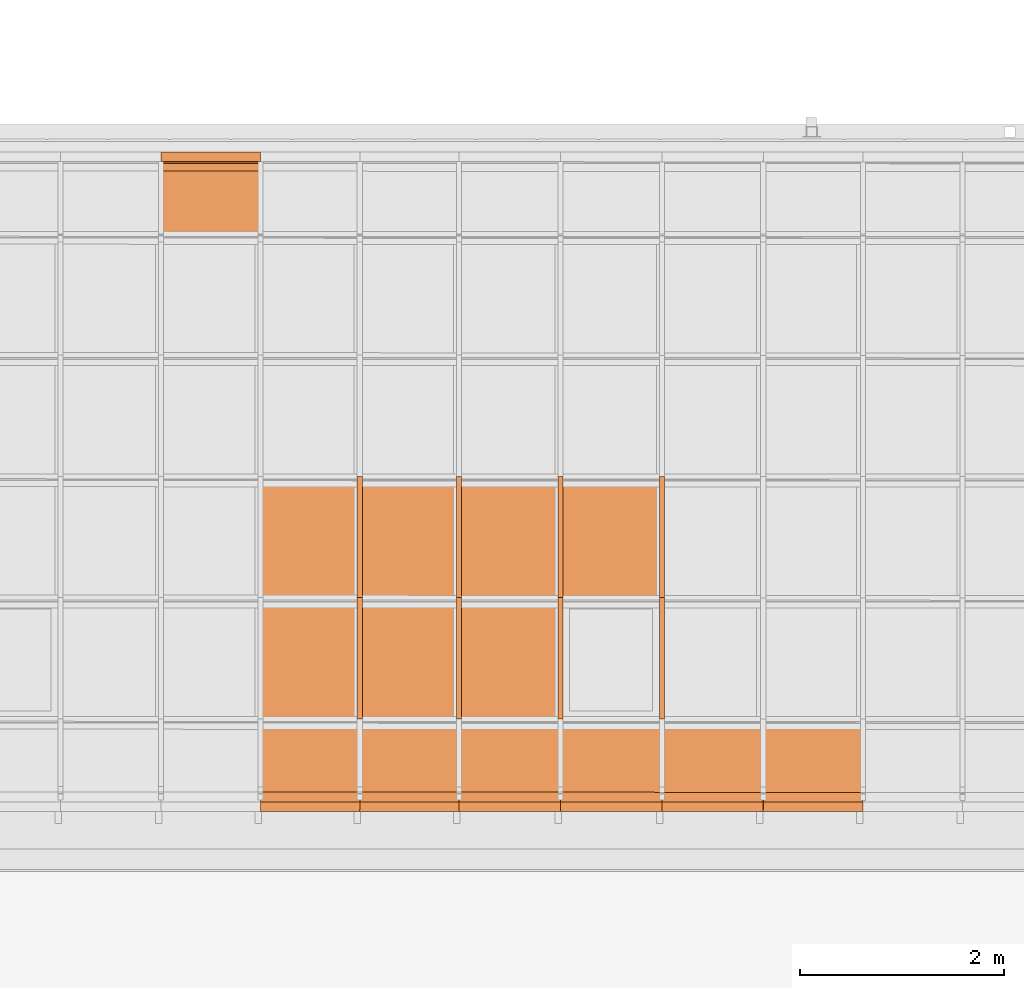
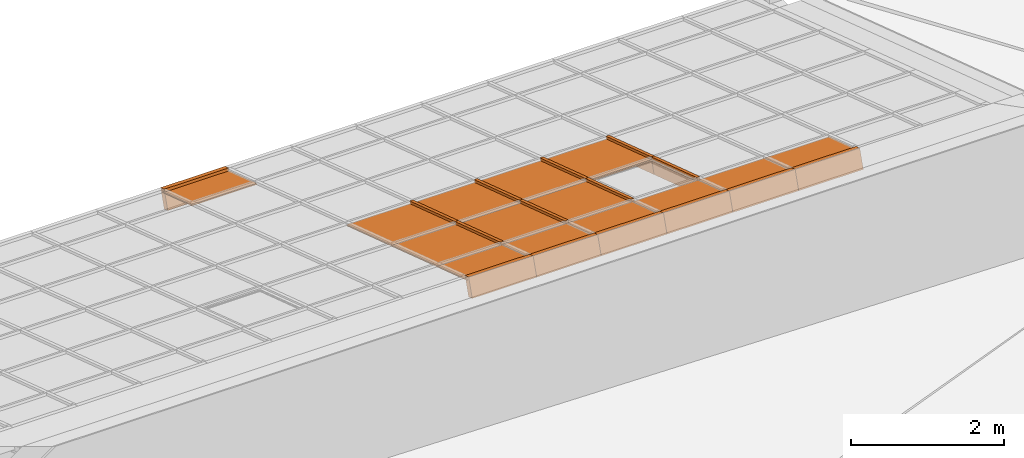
# One storey, part 37 of 47: 29 proxies, 1 element without a shape of its own.
"""IFC2X3 building model written with IfcOpenShell, lengths in millimetres."""

from ifc_helpers import new_model, entity, si_unit, converted_unit, derived_unit, money_unit, direction, frame, origin_with_axes, place, context, subcontext, project, spatial, polyline, outline, extrude, material, material_list, type_object, element, aggregate, save


model = new_model("IFC2X3")

# Units and contexts
model_context = context("Model", 3, precision=1e-05, world=origin_with_axes(), true_north=direction((0.0, 1.0)))
body_context = subcontext(model_context, "Body", "Model", "MODEL_VIEW")
ifc_project = project(units=[si_unit("LENGTHUNIT", "METRE", prefix="MILLI"), si_unit("AREAUNIT", "SQUARE_METRE"), si_unit("VOLUMEUNIT", "CUBIC_METRE"), converted_unit("PLANEANGLEUNIT", "DEGREE", entity("IfcPlaneAngleMeasure", 0.0174532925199), si_unit("PLANEANGLEUNIT", "RADIAN"), dimensions=[0, 0, 0, 0, 0, 0, 0]), si_unit("SOLIDANGLEUNIT", "STERADIAN"), money_unit("EUR"), converted_unit("TIMEUNIT", "Year", entity("IfcTimeMeasure", 31556926.0), si_unit("TIMEUNIT", "SECOND"), dimensions=[0, 0, 1, 0, 0, 0, 0]), si_unit("MASSUNIT", "GRAM", prefix="KILO"), si_unit("THERMODYNAMICTEMPERATUREUNIT", "DEGREE_CELSIUS"), si_unit("LUMINOUSINTENSITYUNIT", "LUMEN"), si_unit("ENERGYUNIT", "JOULE", prefix="MEGA"), derived_unit("THERMALCONDUCTANCEUNIT", [(si_unit("POWERUNIT", "WATT"), 1), (si_unit("LENGTHUNIT", "METRE"), -1), (si_unit("THERMODYNAMICTEMPERATUREUNIT", "KELVIN"), -1)]), derived_unit("SPECIFICHEATCAPACITYUNIT", [(si_unit("ENERGYUNIT", "JOULE"), 1), (si_unit("MASSUNIT", "GRAM", prefix="KILO"), -1), (si_unit("THERMODYNAMICTEMPERATUREUNIT", "KELVIN"), -1)]), derived_unit("MASSDENSITYUNIT", [(si_unit("MASSUNIT", "GRAM", prefix="KILO"), 1), (si_unit("VOLUMEUNIT", "CUBIC_METRE"), -1)])], contexts=[model_context])

# Site, building, storey
site_placement = place(None, origin_with_axes())
site = spatial("IfcSite", under=ifc_project, at=site_placement, Name="Site", CompositionType="ELEMENT")
building_placement = place(site_placement, origin_with_axes())
building = spatial("IfcBuilding", under=site, at=building_placement, Name="Building", CompositionType="ELEMENT")
storey_placement = place(building_placement, frame((0.0, 0.0, 6000.0), z_axis=(0.0, 0.0, 1.0), x_axis=(1.0, 0.0, 0.0)))
storey = spatial("IfcBuildingStorey", under=building, at=storey_placement, Name="KATUSEPLAAN", CompositionType="ELEMENT", Elevation=6000.0)

# Curtain wall, proxies
curtain_wall_type = type_object("IfcCurtainWallType", Name="KK-2", PredefinedType="NOTDEFINED")
curtain_wall_placement = place(storey_placement, frame((71638.1505463, 41358.6055567, 722.550081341), z_axis=(0.0, 0.0, 1.0), x_axis=(1.0, 0.0, 0.0)))
curtain_wall = element("IfcCurtainWall", 1, at=curtain_wall_placement, inside=storey, type_object=curtain_wall_type, Name="Talveaja klaaskatus")
ifc_material_1 = material(Name="Alumiinium (1)")
ifc_material_list = material_list([ifc_material_1, ifc_material_1])
building_element_proxy_type_1 = type_object("IfcBuildingElementProxyType", Name="Frame-Mll-603", PredefinedType="NOTDEFINED")
proxy_1_placement = place(curtain_wall_placement, frame((11279.9952196, 2848.48299575, 1032.87996671), z_axis=(0.0, -0.950019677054, 0.312190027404), x_axis=(-0.999999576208, 0.000287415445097, 0.000874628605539)))
proxy_1 = element("IfcBuildingElementProxy", 2, at=proxy_1_placement, type_object=building_element_proxy_type_1, material=ifc_material_list, Name="Alumiinium (1);  Objekti nimi: Frame 22", context=body_context, shape_type="SweptSolid", body=[
    extrude(outline(polyline([(25.0091958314, 9.9769796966), (25.1841179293, 199.976899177), (-24.8158608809, 200.022931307), (-24.9907829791, 10.0230118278), (25.0091958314, 9.9769796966)])), frame((0.0, 0.0, -9.09494701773e-10), z_axis=(0.0, 0.0, 1.0), x_axis=(0.999999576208, 0.000920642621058, 0.0)), (0.0, 0.0, 1.0), 1250.0),
    extrude(outline(polyline([(-25.0091958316, -9.97697969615), (-25.0460215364, -49.9769627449), (24.9539572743, -50.0229948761), (24.990782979, -10.0230118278), (-25.0091958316, -9.97697969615)])), frame((0.0, 0.0, -9.09494701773e-10), z_axis=(0.0, 0.0, 1.0), x_axis=(0.999999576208, 0.000920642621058, 0.0)), (0.0, 0.0, 1.0), 1250.0),
])
ifc_material_2 = material(Name="Klaas")
building_element_proxy_type_2 = type_object("IfcBuildingElementProxyType", Name="Panel-Main-159", PredefinedType="NOTDEFINED")
proxy_2_placement = place(curtain_wall_placement, frame((8827.49625898, 1067.90098766, 1620.38129474), z_axis=(0.0, 0.0, 1.0), x_axis=(-0.999995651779, 0.0029489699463, 0.0)))
proxy_2 = element("IfcBuildingElementProxy", 3, at=proxy_2_placement, type_object=building_element_proxy_type_2, material=ifc_material_2, Name="Klaas;  Objekti nimi: Built-in CW Panel", context=body_context, shape_type="SweptSolid", body=[
    extrude(outline(polyline([(484.733093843, -631.360496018), (484.747092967, -626.360513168), (489.747094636, -626.374512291), (493.249058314, 623.620579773), (488.249075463, 623.634578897), (488.263093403, 628.634561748), (-484.73309919, 631.360496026), (-484.747098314, 626.360531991), (-489.747081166, 626.374531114), (-493.249063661, -623.620579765), (-488.249061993, -623.634578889), (-488.263098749, -628.634561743), (484.733093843, -631.360496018)])), frame((0.0, -3.12191252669, 9.50019274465), z_axis=(0.0, 0.312191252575, -0.950019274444), x_axis=(1.0, 0.0, 0.0)), (0.0, 0.0, 1.0), 20.0000000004),
])
building_element_proxy_type_3 = type_object("IfcBuildingElementProxyType", Name="Panel-Main-111", PredefinedType="NOTDEFINED")
proxy_3_placement = place(curtain_wall_placement, frame((9800.49584663, 2255.14592875, 1229.29274685), z_axis=(0.0, 0.0, 1.0), x_axis=(-0.999995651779, 0.00294896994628, 0.0)))
proxy_3 = element("IfcBuildingElementProxy", 4, at=proxy_3_placement, type_object=building_element_proxy_type_3, material=ifc_material_2, Name="Klaas;  Objekti nimi: Built-in CW Panel", context=body_context, shape_type="SweptSolid", body=[
    extrude(outline(polyline([(484.733093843, -631.360496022), (484.747092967, -626.360513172), (489.747094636, -626.374512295), (493.249058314, 623.620579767), (488.249075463, 623.634578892), (488.263093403, 628.634561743), (-484.73309919, 631.360496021), (-484.747098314, 626.360531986), (-489.747081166, 626.374531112), (-493.249063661, -623.620579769), (-488.249061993, -623.634578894), (-488.263098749, -628.634561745), (484.733093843, -631.360496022)])), frame((1.13686837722e-10, -3.12191252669, 9.50019274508), z_axis=(0.0, 0.312191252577, -0.950019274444), x_axis=(1.0, 0.0, 0.0)), (0.0, 0.0, 1.0), 20.0000000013),
])
building_element_proxy_type_4 = type_object("IfcBuildingElementProxyType", Name="Panel-Main-212", PredefinedType="NOTDEFINED")
proxy_4_placement = place(curtain_wall_placement, frame((10783.49543, -3.09934445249, 1970.43177696), z_axis=(0.0, 0.0, 1.0), x_axis=(-0.999995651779, 0.00294896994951, 0.0)))
proxy_4 = element("IfcBuildingElementProxy", 5, at=proxy_4_placement, type_object=building_element_proxy_type_4, material=ifc_material_2, Name="Klaas;  Objekti nimi: Built-in CW Panel", context=body_context, shape_type="SweptSolid", body=[
    extrude(outline(polyline([(500.647726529, -304.911126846), (502.903734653, 500.346696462), (497.903748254, 500.360702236), (497.917769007, 505.360673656), (-495.078346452, 508.142654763), (-495.092352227, 503.142668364), (-500.092338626, 503.156689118), (-502.34833177, -302.101134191), (-497.348345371, -302.115139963), (-497.292322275, -282.115224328), (495.703778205, -284.897190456), (495.64774013, -304.897121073), (500.647726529, -304.911126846)])), frame((0.0, -3.12191252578, 9.50019274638), z_axis=(0.0, 0.312191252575, -0.950019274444), x_axis=(1.0, 0.0, 0.0)), (0.0, 0.0, 1.0), 20.0000000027),
])
building_element_proxy_type_5 = type_object("IfcBuildingElementProxyType", Name="Panel-Dist-154", PredefinedType="NOTDEFINED")
proxy_5_placement = place(curtain_wall_placement, frame((10783.49543, 2254.86339937, 1228.43298694), z_axis=(0.0, 0.0, 1.0), x_axis=(-0.999995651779, 0.00294896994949, 0.0)))
proxy_5 = element("IfcBuildingElementProxy", 6, at=proxy_5_placement, type_object=building_element_proxy_type_5, material=ifc_material_2, Name="Klaas;  Objekti nimi: Built-in CW Panel", context=body_context, shape_type="SweptSolid", body=[
    extrude(outline(polyline([(494.733053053, -631.388511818), (494.747071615, -626.388532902), (499.747050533, -626.402532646), (503.249019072, 623.592554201), (498.249040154, 623.606553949), (498.2630399, 628.606551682), (-494.733077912, 631.388511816), (-494.747077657, 626.388532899), (-499.747037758, 626.402532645), (-503.249025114, -623.592554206), (-498.249046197, -623.606553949), (-498.263045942, -628.606551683), (494.733053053, -631.388511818)])), frame((0.0, -3.12191252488, 9.50019274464), z_axis=(0.0, 0.312191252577, -0.950019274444), x_axis=(1.0, 0.0, 0.0)), (0.0, 0.0, 1.0), 20.0000000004),
])
building_element_proxy_type_6 = type_object("IfcBuildingElementProxyType", Name="Panel-Main-180", PredefinedType="NOTDEFINED")
proxy_6_placement = place(curtain_wall_placement, frame((11776.4950092, 2254.57799583, 1227.56448073), z_axis=(0.0, 0.0, 1.0), x_axis=(-0.999995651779, 0.00294896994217, 0.0)))
proxy_6 = element("IfcBuildingElementProxy", 7, at=proxy_6_placement, type_object=building_element_proxy_type_6, material=ifc_material_2, Name="Klaas;  Objekti nimi: Built-in CW Panel", context=body_context, shape_type="SweptSolid", body=[
    extrude(outline(polyline([(494.733053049, -631.388511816), (494.747071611, -626.3885329), (499.747050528, -626.402532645), (503.249019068, 623.592554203), (498.24904015, 623.60655395), (498.263039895, 628.606551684), (-494.733077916, 631.388511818), (-494.747077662, 626.3885329), (-499.747037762, 626.402532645), (-503.249025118, -623.592554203), (-498.249046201, -623.606553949), (-498.263045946, -628.606551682), (494.733053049, -631.388511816)])), frame((0.0, -3.12191252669, 9.50019274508), z_axis=(0.0, 0.312191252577, -0.950019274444), x_axis=(1.0, 0.0, 0.0)), (0.0, 0.0, 1.0), 20.0000000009),
])
building_element_proxy_type_7 = type_object("IfcBuildingElementProxyType", Name="Panel-Dist-153", PredefinedType="NOTDEFINED")
proxy_7_placement = place(curtain_wall_placement, frame((8827.49625898, 2255.42558398, 1230.14376049), z_axis=(0.0, 0.0, 1.0), x_axis=(-0.999995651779, 0.00294896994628, 0.0)))
proxy_7 = element("IfcBuildingElementProxy", 8, at=proxy_7_placement, type_object=building_element_proxy_type_7, material=ifc_material_2, Name="Klaas;  Objekti nimi: Built-in CW Panel", context=body_context, shape_type="SweptSolid", body=[
    extrude(outline(polyline([(484.733093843, -631.360496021), (484.747092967, -626.360513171), (489.747094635, -626.374512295), (493.249058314, 623.620579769), (488.249075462, 623.634578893), (488.263093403, 628.634561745), (-484.73309919, 631.360496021), (-484.747098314, 626.360531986), (-489.747081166, 626.374531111), (-493.249063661, -623.620579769), (-488.249061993, -623.634578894), (-488.26309875, -628.634561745), (484.733093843, -631.360496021)])), frame((0.0, -3.12191252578, 9.50019274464), z_axis=(0.0, 0.312191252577, -0.950019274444), x_axis=(1.0, 0.0, 0.0)), (0.0, 0.0, 1.0), 20.0000000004),
])
building_element_proxy_type_8 = type_object("IfcBuildingElementProxyType", Name="Panel-Main-158", PredefinedType="NOTDEFINED")
proxy_8_placement = place(curtain_wall_placement, frame((9800.49584663, 1067.62133243, 1619.53028111), z_axis=(0.0, 0.0, 1.0), x_axis=(-0.999995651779, 0.0029489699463, 0.0)))
proxy_8 = element("IfcBuildingElementProxy", 9, at=proxy_8_placement, type_object=building_element_proxy_type_8, material=ifc_material_2, Name="Klaas;  Objekti nimi: Built-in CW Panel", context=body_context, shape_type="SweptSolid", body=[
    extrude(outline(polyline([(484.733112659, -631.360496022), (484.747111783, -626.360513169), (489.747075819, -626.374531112), (493.249058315, 623.62057977), (488.249075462, 623.634578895), (488.263093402, 628.634561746), (-484.733080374, 631.360496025), (-484.747098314, 626.360513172), (-489.747081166, 626.374512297), (-493.249044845, -623.620579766), (-488.249061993, -623.634578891), (-488.263079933, -628.634561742), (484.733112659, -631.360496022)])), frame((0.0, -3.12191252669, 9.50019274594), z_axis=(0.0, 0.312191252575, -0.950019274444), x_axis=(1.0, 0.0, 0.0)), (0.0, 0.0, 1.0), 20.0000000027),
])
building_element_proxy_type_9 = type_object("IfcBuildingElementProxyType", Name="Panel-Main-213", PredefinedType="NOTDEFINED")
proxy_9_placement = place(curtain_wall_placement, frame((9800.49584663, -2.81681507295, 1971.29153688), z_axis=(0.0, 0.0, 1.0), x_axis=(-0.999995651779, 0.00294896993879, 0.0)))
proxy_9 = element("IfcBuildingElementProxy", 10, at=proxy_9_placement, type_object=building_element_proxy_type_9, material=ifc_material_2, Name="Klaas;  Objekti nimi: Built-in CW Panel", context=body_context, shape_type="SweptSolid", body=[
    extrude(outline(polyline([(490.647783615, -304.88310606), (492.903773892, 500.374714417), (487.903797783, 500.388720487), (487.917803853, 505.388696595), (-485.078383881, 508.114638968), (-485.092389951, 503.114662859), (-490.09236606, 503.128668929), (-492.348371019, -302.129136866), (-487.34839491, -302.143142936), (-487.292355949, -282.143223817), (485.703817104, -284.86918087), (485.647792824, -304.869099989), (490.647783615, -304.88310606)])), frame((1.13686837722e-10, -3.12191252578, 9.50019274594), z_axis=(0.0, 0.312191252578, -0.950019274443), x_axis=(1.0, 0.0, 0.0)), (0.0, 0.0, 1.0), 20.0000000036),
])
building_element_proxy_type_10 = type_object("IfcBuildingElementProxyType", Name="Panel-Main-157", PredefinedType="NOTDEFINED")
proxy_10_placement = place(curtain_wall_placement, frame((10783.49543, 1067.33880305, 1618.67052119), z_axis=(0.0, 0.0, 1.0), x_axis=(-0.999995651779, 0.00294896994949, 0.0)))
proxy_10 = element("IfcBuildingElementProxy", 11, at=proxy_10_placement, type_object=building_element_proxy_type_10, material=ifc_material_2, Name="Klaas;  Objekti nimi: Built-in CW Panel", context=body_context, shape_type="SweptSolid", body=[
    extrude(outline(polyline([(494.733053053, -631.388511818), (494.747071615, -626.3885329), (499.747050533, -626.402532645), (503.249019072, 623.592554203), (498.249040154, 623.60655395), (498.2630399, 628.606551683), (-494.733077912, 631.388511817), (-494.747077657, 626.3885329), (-499.747037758, 626.402532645), (-503.249025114, -623.592554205), (-498.249046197, -623.606553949), (-498.263045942, -628.606551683), (494.733053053, -631.388511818)])), frame((0.0, -3.12191252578, 9.50019274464), z_axis=(0.0, 0.312191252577, -0.950019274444), x_axis=(1.0, 0.0, 0.0)), (0.0, 0.0, 1.0), 20.0000000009),
])
building_element_proxy_type_11 = type_object("IfcBuildingElementProxyType", Name="Panel-Main-211", PredefinedType="NOTDEFINED")
proxy_11_placement = place(curtain_wall_placement, frame((11776.4950092, -3.384747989, 1969.56327075), z_axis=(0.0, 0.0, 1.0), x_axis=(-0.999995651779, 0.00294896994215, 0.0)))
proxy_11 = element("IfcBuildingElementProxy", 12, at=proxy_11_placement, type_object=building_element_proxy_type_11, material=ifc_material_2, Name="Klaas;  Objekti nimi: Built-in CW Panel", context=body_context, shape_type="SweptSolid", body=[
    extrude(outline(polyline([(500.647741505, -304.911111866), (502.903734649, 500.346696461), (497.90374825, 500.360687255), (497.917769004, 505.360688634), (-495.078346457, 508.142654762), (-495.092352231, 503.142668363), (-500.09232365, 503.156704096), (-502.348331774, -302.101149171), (-497.348345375, -302.115139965), (-497.292322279, -282.115209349), (495.703793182, -284.897175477), (495.647755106, -304.897106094), (500.647741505, -304.911111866)])), frame((0.0, -3.12191252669, 9.5001927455), z_axis=(0.0, 0.312191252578, -0.950019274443), x_axis=(1.0, 0.0, 0.0)), (0.0, 0.0, 1.0), 20.0000000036),
])
building_element_proxy_type_12 = type_object("IfcBuildingElementProxyType", Name="Panel-Main-214", PredefinedType="NOTDEFINED")
proxy_12_placement = place(curtain_wall_placement, frame((8827.49625898, -2.537159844, 1972.14255051), z_axis=(0.0, 0.0, 1.0), x_axis=(-0.999995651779, 0.00294896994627, 0.0)))
proxy_12 = element("IfcBuildingElementProxy", 13, at=proxy_12_placement, type_object=building_element_proxy_type_12, material=ifc_material_2, Name="Klaas;  Objekti nimi: Built-in CW Panel", context=body_context, shape_type="SweptSolid", body=[
    extrude(outline(polyline([(490.647783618, -304.883091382), (492.903773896, 500.374714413), (487.903783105, 500.388720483), (487.917789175, 505.388681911), (-485.078383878, 508.114638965), (-485.092389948, 503.114648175), (-490.092366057, 503.128668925), (-492.348371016, -302.129151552), (-487.348380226, -302.143157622), (-487.292370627, -282.143238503), (485.703831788, -284.869180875), (485.647792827, -304.869085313), (490.647783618, -304.883091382)])), frame((0.0, -3.12191252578, 9.50019274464), z_axis=(0.0, 0.312191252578, -0.950019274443), x_axis=(1.0, 0.0, 0.0)), (0.0, 0.0, 1.0), 20.0000000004),
])
building_element_proxy_type_13 = type_object("IfcBuildingElementProxyType", Name="Panel-Main-209", PredefinedType="NOTDEFINED")
proxy_13_placement = place(curtain_wall_placement, frame((13753.9941712, -3.95311203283, 1967.83369268), z_axis=(0.0, 0.0, 1.0), x_axis=(-0.999995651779, 0.00294896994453, 0.0)))
proxy_13 = element("IfcBuildingElementProxy", 14, at=proxy_13_placement, type_object=building_element_proxy_type_13, material=ifc_material_2, Name="Klaas;  Objekti nimi: Built-in CW Panel", context=body_context, shape_type="SweptSolid", body=[
    extrude(outline(polyline([(492.147770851, -304.887314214), (494.403768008, 500.370517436), (489.403794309, 500.384521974), (489.417798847, 505.384495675), (-486.578375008, 508.118841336), (-486.592379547, 503.118867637), (-491.592367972, 503.132872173), (-493.84836513, -302.12494475), (-488.848376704, -302.138964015), (-488.792343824, -282.139025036), (487.203800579, -284.873385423), (487.147782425, -304.873294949), (492.147770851, -304.887314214)])), frame((1.70530256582e-10, -3.12191252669, 9.5001927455), z_axis=(0.0, 0.312191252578, -0.950019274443), x_axis=(1.0, 0.0, 0.0)), (0.0, 0.0, 1.0), 20.0000000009),
])
building_element_proxy_type_14 = type_object("IfcBuildingElementProxyType", Name="Panel-Main-076", PredefinedType="NOTDEFINED")
proxy_14_placement = place(curtain_wall_placement, frame((7854.49667133, 5602.0255846, 131.346139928), z_axis=(0.0, 0.0, 1.0), x_axis=(-0.999995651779, 0.00294896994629, 0.0)))
proxy_14 = element("IfcBuildingElementProxy", 15, at=proxy_14_placement, type_object=building_element_proxy_type_14, material=ifc_material_2, Name="Klaas;  Objekti nimi: Built-in CW Panel", context=body_context, shape_type="SweptSolid", body=[
    extrude(outline(polyline([(485.370822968, -403.730890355), (485.384828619, -398.730917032), (490.384801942, -398.744922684), (492.611333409, 395.990982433), (487.611360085, 396.004988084), (487.555322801, 376.005065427), (-485.440851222, 378.730999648), (-485.384828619, 398.730922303), (-490.384801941, 398.744927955), (-492.611333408, -395.990977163), (-487.611360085, -396.004982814), (-487.625365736, -401.004956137), (485.370822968, -403.730890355)])), frame((0.0, -3.12191252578, 9.50019274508), z_axis=(0.0, 0.312191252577, -0.950019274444), x_axis=(1.0, 0.0, 0.0)), (0.0, 0.0, 1.0), 20.0000000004),
])
building_element_proxy_type_15 = type_object("IfcBuildingElementProxyType", Name="Panel-Main-210", PredefinedType="NOTDEFINED")
proxy_15_placement = place(curtain_wall_placement, frame((12769.4945884, -3.67015152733, 1968.69476455), z_axis=(0.0, 0.0, 1.0), x_axis=(-0.999995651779, 0.00294896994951, 0.0)))
proxy_15 = element("IfcBuildingElementProxy", 16, at=proxy_15_placement, type_object=building_element_proxy_type_15, material=ifc_material_2, Name="Klaas;  Objekti nimi: Built-in CW Panel", context=body_context, shape_type="SweptSolid", body=[
    extrude(outline(polyline([(500.647741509, -304.911111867), (502.903734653, 500.346696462), (497.903748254, 500.360687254), (497.917769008, 505.360688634), (-495.078346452, 508.142654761), (-495.092352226, 503.142668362), (-500.092323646, 503.156704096), (-502.348331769, -302.101149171), (-497.34834537, -302.115139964), (-497.292322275, -282.115209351), (495.703793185, -284.897175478), (495.64775511, -304.897106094), (500.647741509, -304.911111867)])), frame((0.0, -3.12191252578, 9.50019274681), z_axis=(0.0, 0.312191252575, -0.950019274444), x_axis=(1.0, 0.0, 0.0)), (0.0, 0.0, 1.0), 20.0000000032),
])
building_element_proxy_type_16 = type_object("IfcBuildingElementProxyType", Name="Frame-Mll-602", PredefinedType="NOTDEFINED")
proxy_16_placement = place(curtain_wall_placement, frame((10286.9956405, 2848.76839929, 1033.74847291), z_axis=(0.0, -0.950019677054, 0.312190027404), x_axis=(-0.999999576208, 0.000287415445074, 0.000874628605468)))
proxy_16 = element("IfcBuildingElementProxy", 17, at=proxy_16_placement, type_object=building_element_proxy_type_16, material=ifc_material_list, Name="Alumiinium (1);  Objekti nimi: Frame 22", context=body_context, shape_type="SweptSolid", body=[
    extrude(outline(polyline([(25.0091958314, 9.97697969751), (25.1841179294, 199.976899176), (-24.8158608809, 200.022931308), (-24.9907829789, 10.0230118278), (25.0091958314, 9.97697969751)])), frame((0.0, 0.0, 0.0), z_axis=(0.0, 0.0, 1.0), x_axis=(0.999999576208, 0.000920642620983, 0.0)), (0.0, 0.0, 1.0), 1250.0),
    extrude(outline(polyline([(-25.0091958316, -9.9769796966), (-25.0460215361, -49.9769627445), (24.9539572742, -50.0229948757), (24.990782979, -10.0230118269), (-25.0091958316, -9.9769796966)])), frame((0.0, 0.0, 0.0), z_axis=(0.0, 0.0, 1.0), x_axis=(0.999999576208, 0.000920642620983, 0.0)), (0.0, 0.0, 1.0), 1250.0),
])
building_element_proxy_type_17 = type_object("IfcBuildingElementProxyType", Name="Frame-Mll-068", PredefinedType="NOTDEFINED")
proxy_17_placement = place(curtain_wall_placement, frame((9313.99605281, 1661.52345821, 1424.8370208), z_axis=(0.0, -0.950019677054, 0.312190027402), x_axis=(-0.999999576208, 0.000287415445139, 0.000874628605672)))
proxy_17 = element("IfcBuildingElementProxy", 18, at=proxy_17_placement, type_object=building_element_proxy_type_17, material=ifc_material_list, Name="Alumiinium (1);  Objekti nimi: Frame 22", context=body_context, shape_type="SweptSolid", body=[
    extrude(outline(polyline([(25.0091958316, 9.97697969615), (25.1841179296, 199.976899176), (-24.8158608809, 200.022931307), (-24.990782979, 10.0230118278), (25.0091958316, 9.97697969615)])), frame((0.0, 0.0, 0.0), z_axis=(0.0, 0.0, 1.0), x_axis=(0.999999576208, 0.000920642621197, 0.0)), (0.0, 0.0, 1.0), 1250.00000001),
    extrude(outline(polyline([(-25.0091958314, -9.9769796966), (-25.0460215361, -49.9769627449), (24.9539572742, -50.0229948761), (24.990782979, -10.0230118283), (-25.0091958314, -9.9769796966)])), frame((0.0, 0.0, 0.0), z_axis=(0.0, 0.0, 1.0), x_axis=(0.999999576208, 0.000920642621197, 0.0)), (0.0, 0.0, 1.0), 1250.00000001),
])
building_element_proxy_type_18 = type_object("IfcBuildingElementProxyType", Name="Frame-Bnd-645", PredefinedType="NOTDEFINED")
proxy_18_placement = place(curtain_wall_placement, frame((11279.9952196, -291.579970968, 2064.74948195), z_axis=(-0.999999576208, 0.000287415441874, 0.000874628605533), x_axis=(0.0, 0.950019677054, -0.312190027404)))
proxy_18 = element("IfcBuildingElementProxy", 19, at=proxy_18_placement, type_object=building_element_proxy_type_18, material=ifc_material_1, Name="Alumiinium (1);  Objekti nimi: Built-in Frame", context=body_context, shape_type="SweptSolid", body=[
    extrude(outline(polyline([(15.8784912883, 15.743999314), (44.3790804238, 25.109703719), (-30.5465548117, 253.114416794), (-125.548518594, 221.895402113), (-31.8914745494, -63.1104892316), (63.1104892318, -31.8914745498), (50.6228833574, 6.10931096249), (22.1222942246, -3.25639344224), (15.8784912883, 15.743999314)])), frame((0.0, 0.0, -7.95807864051e-10), z_axis=(0.0, 0.0, 1.0), x_axis=(0.950019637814, -0.312190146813, 0.0)), (0.0, 0.0, 1.0), 993.000000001),
])
building_element_proxy_type_19 = type_object("IfcBuildingElementProxyType", Name="Frame-Mll-601", PredefinedType="NOTDEFINED")
proxy_19_placement = place(curtain_wall_placement, frame((9313.99605281, 2849.04805452, 1034.59948654), z_axis=(0.0, -0.950019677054, 0.312190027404), x_axis=(-0.999999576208, 0.000287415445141, 0.000874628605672)))
proxy_19 = element("IfcBuildingElementProxy", 20, at=proxy_19_placement, type_object=building_element_proxy_type_19, material=ifc_material_list, Name="Alumiinium (1);  Objekti nimi: Frame 22", context=body_context, shape_type="SweptSolid", body=[
    extrude(outline(polyline([(25.0091958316, 9.9769796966), (25.1841179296, 199.976899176), (-24.8158608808, 200.022931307), (-24.9907829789, 10.0230118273), (25.0091958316, 9.9769796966)])), frame((0.0, 0.0, -1.81898940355e-09), z_axis=(0.0, 0.0, 1.0), x_axis=(0.999999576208, 0.000920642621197, 0.0)), (0.0, 0.0, 1.0), 1250.0),
    extrude(outline(polyline([(-25.0091958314, -9.97697969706), (-25.0460215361, -49.9769627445), (24.9539572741, -50.0229948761), (24.990782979, -10.0230118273), (-25.0091958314, -9.97697969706)])), frame((0.0, 0.0, -1.81898940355e-09), z_axis=(0.0, 0.0, 1.0), x_axis=(0.999999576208, 0.000920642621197, 0.0)), (0.0, 0.0, 1.0), 1250.0),
])
building_element_proxy_type_20 = type_object("IfcBuildingElementProxyType", Name="Frame-Mll-604", PredefinedType="NOTDEFINED")
proxy_20_placement = place(curtain_wall_placement, frame((12272.9947988, 2848.19759222, 1032.0114605), z_axis=(0.0, -0.950019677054, 0.312190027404), x_axis=(-0.999999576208, 0.000287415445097, 0.000874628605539)))
proxy_20 = element("IfcBuildingElementProxy", 21, at=proxy_20_placement, type_object=building_element_proxy_type_20, material=ifc_material_list, Name="Alumiinium (1);  Objekti nimi: Frame 22", context=body_context, shape_type="SweptSolid", body=[
    extrude(outline(polyline([(25.0091958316, 9.9769796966), (25.1841179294, 199.976899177), (-24.8158608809, 200.022931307), (-24.990782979, 10.0230118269), (25.0091958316, 9.9769796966)])), frame((0.0, 0.0, 0.0), z_axis=(0.0, 0.0, 1.0), x_axis=(0.999999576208, 0.000920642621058, 0.0)), (0.0, 0.0, 1.0), 1250.0),
    extrude(outline(polyline([(-25.0091958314, -9.97697969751), (-25.0460215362, -49.9769627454), (24.9539572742, -50.0229948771), (24.990782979, -10.0230118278), (-25.0091958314, -9.97697969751)])), frame((0.0, -4.54747350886e-10, 9.09494701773e-10), z_axis=(0.0, 0.0, 1.0), x_axis=(0.999999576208, 0.000920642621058, 0.0)), (0.0, 0.0, 1.0), 1250.0),
])
building_element_proxy_type_21 = type_object("IfcBuildingElementProxyType", Name="Frame-Mll-070", PredefinedType="NOTDEFINED")
proxy_21_placement = place(curtain_wall_placement, frame((11279.9952196, 1660.95839944, 1423.11750096), z_axis=(0.0, -0.950019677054, 0.312190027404), x_axis=(-0.999999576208, 0.000287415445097, 0.000874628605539)))
proxy_21 = element("IfcBuildingElementProxy", 22, at=proxy_21_placement, type_object=building_element_proxy_type_21, material=ifc_material_list, Name="Alumiinium (1);  Objekti nimi: Frame 22", context=body_context, shape_type="SweptSolid", body=[
    extrude(outline(polyline([(25.0091958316, 9.9769796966), (25.1841179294, 199.976899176), (-24.8158608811, 200.022931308), (-24.9907829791, 10.0230118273), (25.0091958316, 9.9769796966)])), frame((0.0, 0.0, 0.0), z_axis=(0.0, 0.0, 1.0), x_axis=(0.999999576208, 0.000920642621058, 0.0)), (0.0, 0.0, 1.0), 1250.0),
    extrude(outline(polyline([(-25.0091958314, -9.97697969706), (-25.0460215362, -49.9769627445), (24.9539572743, -50.0229948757), (24.9907829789, -10.0230118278), (-25.0091958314, -9.97697969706)])), frame((0.0, 0.0, 0.0), z_axis=(0.0, 0.0, 1.0), x_axis=(0.999999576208, 0.000920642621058, 0.0)), (0.0, 0.0, 1.0), 1250.0),
])
building_element_proxy_type_22 = type_object("IfcBuildingElementProxyType", Name="Frame-Mll-071", PredefinedType="NOTDEFINED")
proxy_22_placement = place(curtain_wall_placement, frame((12272.9947988, 1660.6729959, 1422.24899476), z_axis=(0.0, -0.950019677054, 0.312190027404), x_axis=(-0.999999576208, 0.000287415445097, 0.000874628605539)))
proxy_22 = element("IfcBuildingElementProxy", 23, at=proxy_22_placement, type_object=building_element_proxy_type_22, material=ifc_material_list, Name="Alumiinium (1);  Objekti nimi: Frame 22", context=body_context, shape_type="SweptSolid", body=[
    extrude(outline(polyline([(25.0091958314, 9.97697969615), (25.1841179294, 199.976899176), (-24.8158608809, 200.022931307), (-24.990782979, 10.0230118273), (25.0091958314, 9.97697969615)])), frame((0.0, 0.0, 0.0), z_axis=(0.0, 0.0, 1.0), x_axis=(0.999999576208, 0.000920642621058, 0.0)), (0.0, 0.0, 1.0), 1250.0),
    extrude(outline(polyline([(-25.0091958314, -9.97697969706), (-25.0460215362, -49.9769627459), (24.9539572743, -50.0229948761), (24.990782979, -10.0230118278), (-25.0091958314, -9.97697969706)])), frame((0.0, 0.0, 0.0), z_axis=(0.0, 0.0, 1.0), x_axis=(0.999999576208, 0.000920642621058, 0.0)), (0.0, 0.0, 1.0), 1250.0),
])
building_element_proxy_type_23 = type_object("IfcBuildingElementProxyType", Name="Frame-Mll-069", PredefinedType="NOTDEFINED")
proxy_23_placement = place(curtain_wall_placement, frame((10286.9956405, 1661.24380298, 1423.98600717), z_axis=(0.0, -0.950019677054, 0.312190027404), x_axis=(-0.999999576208, 0.000287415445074, 0.000874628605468)))
proxy_23 = element("IfcBuildingElementProxy", 24, at=proxy_23_placement, type_object=building_element_proxy_type_23, material=ifc_material_list, Name="Alumiinium (1);  Objekti nimi: Frame 22", context=body_context, shape_type="SweptSolid", body=[
    extrude(outline(polyline([(25.0091958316, 9.9769796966), (25.1841179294, 199.976899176), (-24.8158608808, 200.022931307), (-24.990782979, 10.0230118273), (25.0091958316, 9.9769796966)])), frame((0.0, 0.0, -1.81898940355e-09), z_axis=(0.0, 0.0, 1.0), x_axis=(0.999999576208, 0.000920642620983, 0.0)), (0.0, 0.0, 1.0), 1250.0),
    extrude(outline(polyline([(-25.0091958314, -9.9769796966), (-25.0460215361, -49.9769627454), (24.9539572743, -50.0229948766), (24.990782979, -10.0230118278), (-25.0091958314, -9.9769796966)])), frame((0.0, 0.0, -9.09494701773e-10), z_axis=(0.0, 0.0, 1.0), x_axis=(0.999999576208, 0.000920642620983, 0.0)), (0.0, 0.0, 1.0), 1250.0),
])
building_element_proxy_type_24 = type_object("IfcBuildingElementProxyType", Name="Frame-Bnd-644", PredefinedType="NOTDEFINED")
proxy_24_placement = place(curtain_wall_placement, frame((12272.9947988, -291.86537451, 2063.88097574), z_axis=(-0.999999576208, 0.000287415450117, 0.000874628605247), x_axis=(0.0, 0.950019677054, -0.312190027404)))
proxy_24 = element("IfcBuildingElementProxy", 25, at=proxy_24_placement, type_object=building_element_proxy_type_24, material=ifc_material_1, Name="Alumiinium (1);  Objekti nimi: Built-in Frame", context=body_context, shape_type="SweptSolid", body=[
    extrude(outline(polyline([(15.8784912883, 15.7439993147), (44.379080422, 25.1097037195), (-30.5465548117, 253.114416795), (-125.548518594, 221.895402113), (-31.8914745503, -63.1104892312), (63.1104892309, -31.8914745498), (50.6228833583, 6.10931096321), (22.1222942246, -3.25639344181), (15.8784912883, 15.7439993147)])), frame((0.0, 0.0, -4.54747350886e-10), z_axis=(0.0, 0.0, 1.0), x_axis=(0.950019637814, -0.312190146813, 0.0)), (0.0, 0.0, 1.0), 993.000000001),
])
building_element_proxy_type_25 = type_object("IfcBuildingElementProxyType", Name="Frame-Bnd-624", PredefinedType="NOTDEFINED")
proxy_25_placement = place(curtain_wall_placement, frame((7367.9968775, 5979.67426681, 7.71684818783), z_axis=(0.999999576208, -0.000287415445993, -0.00087462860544), x_axis=(0.0, -0.950019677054, 0.312190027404)))
proxy_25 = element("IfcBuildingElementProxy", 26, at=proxy_25_placement, type_object=building_element_proxy_type_25, material=ifc_material_1, Name="Alumiinium (1);  Objekti nimi: Built-in Frame", context=body_context, shape_type="SweptSolid", body=[
    extrude(outline(polyline([(22.1222942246, 3.25639344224), (50.6228833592, -6.10931096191), (125.548518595, 221.895402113), (30.5465548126, 253.114416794), (-63.1104892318, -31.8914745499), (31.8914745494, -63.1104892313), (44.3790804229, -25.1097037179), (15.8784912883, -15.743999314), (22.1222942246, 3.25639344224)])), frame((0.0, 0.0, -4.54747350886e-10), z_axis=(0.0, 0.0, 1.0), x_axis=(0.950019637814, 0.312190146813, 0.0)), (0.0, 0.0, 1.0), 973.0),
])
building_element_proxy_type_26 = type_object("IfcBuildingElementProxyType", Name="Frame-Bnd-643", PredefinedType="NOTDEFINED")
proxy_26_placement = place(curtain_wall_placement, frame((13265.994378, -292.150778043, 2063.01246954), z_axis=(-0.999999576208, 0.000287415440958, 0.000874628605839), x_axis=(0.0, 0.950019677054, -0.312190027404)))
proxy_26 = element("IfcBuildingElementProxy", 27, at=proxy_26_placement, type_object=building_element_proxy_type_26, material=ifc_material_1, Name="Alumiinium (1);  Objekti nimi: Built-in Frame", context=body_context, shape_type="SweptSolid", body=[
    extrude(outline(polyline([(15.8784912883, 15.7439993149), (44.3790804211, 25.1097037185), (-30.5465548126, 253.114416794), (-125.548518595, 221.895402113), (-31.8914745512, -63.1104892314), (63.1104892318, -31.8914745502), (50.6228833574, 6.10931096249), (22.1222942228, -3.25639344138), (15.8784912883, 15.7439993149)])), frame((0.0, 0.0, -1.13686837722e-10), z_axis=(0.0, 0.0, 1.0), x_axis=(0.950019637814, -0.312190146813, 0.0)), (0.0, 0.0, 1.0), 993.000000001),
])
building_element_proxy_type_27 = type_object("IfcBuildingElementProxyType", Name="Frame-Bnd-642", PredefinedType="NOTDEFINED")
proxy_27_placement = place(curtain_wall_placement, frame((14241.9939644, -292.431295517, 2062.15883202), z_axis=(-0.999999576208, 0.000287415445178, 0.000874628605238), x_axis=(0.0, 0.950019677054, -0.312190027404)))
proxy_27 = element("IfcBuildingElementProxy", 28, at=proxy_27_placement, type_object=building_element_proxy_type_27, material=ifc_material_1, Name="Alumiinium (1);  Objekti nimi: Built-in Frame", context=body_context, shape_type="SweptSolid", body=[
    extrude(outline(polyline([(15.8784912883, 15.7439993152), (44.3790804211, 25.1097037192), (-30.5465548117, 253.114416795), (-125.548518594, 221.895402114), (-31.8914745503, -63.1104892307), (63.1104892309, -31.8914745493), (50.6228833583, 6.10931096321), (22.1222942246, -3.2563934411), (15.8784912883, 15.7439993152)])), frame((0.0, 0.0, -4.54747350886e-10), z_axis=(0.0, 0.0, 1.0), x_axis=(0.950019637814, -0.312190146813, 0.0)), (0.0, 0.0, 1.0), 976.000000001),
])
building_element_proxy_type_28 = type_object("IfcBuildingElementProxyType", Name="Frame-Bnd-647", PredefinedType="NOTDEFINED")
proxy_28_placement = place(curtain_wall_placement, frame((9313.99605281, -291.014912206, 2066.46900179), z_axis=(-0.999999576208, 0.000287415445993, 0.000874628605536), x_axis=(0.0, 0.950019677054, -0.312190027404)))
proxy_28 = element("IfcBuildingElementProxy", 29, at=proxy_28_placement, type_object=building_element_proxy_type_28, material=ifc_material_1, Name="Alumiinium (1);  Objekti nimi: Built-in Frame", context=body_context, shape_type="SweptSolid", body=[
    extrude(outline(polyline([(15.8784912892, 15.743999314), (44.3790804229, 25.1097037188), (-30.5465548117, 253.114416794), (-125.548518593, 221.895402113), (-31.8914745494, -63.1104892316), (63.1104892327, -31.8914745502), (50.6228833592, 6.10931096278), (22.1222942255, -3.25639344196), (15.8784912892, 15.743999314)])), frame((0.0, 0.0, -3.41060513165e-10), z_axis=(0.0, 0.0, 1.0), x_axis=(0.950019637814, -0.312190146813, 0.0)), (0.0, 0.0, 1.0), 973.000000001),
])
building_element_proxy_type_29 = type_object("IfcBuildingElementProxyType", Name="Frame-Bnd-646", PredefinedType="NOTDEFINED")
proxy_29_placement = place(curtain_wall_placement, frame((10286.9956405, -291.294567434, 2065.61798815), z_axis=(-0.999999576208, 0.000287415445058, 0.000874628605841), x_axis=(0.0, 0.950019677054, -0.312190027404)))
proxy_29 = element("IfcBuildingElementProxy", 30, at=proxy_29_placement, type_object=building_element_proxy_type_29, material=ifc_material_1, Name="Alumiinium (1);  Objekti nimi: Built-in Frame", context=body_context, shape_type="SweptSolid", body=[
    extrude(outline(polyline([(15.8784912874, 15.7439993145), (44.379080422, 25.1097037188), (-30.5465548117, 253.114416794), (-125.548518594, 221.895402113), (-31.8914745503, -63.1104892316), (63.1104892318, -31.8914745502), (50.6228833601, 6.10931096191), (22.1222942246, -3.25639344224), (15.8784912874, 15.7439993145)])), frame((0.0, 0.0, -3.41060513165e-10), z_axis=(0.0, 0.0, 1.0), x_axis=(0.950019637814, -0.312190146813, 0.0)), (0.0, 0.0, 1.0), 973.000000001),
])
aggregate(curtain_wall, [proxy_2, proxy_3, proxy_4, proxy_5, proxy_6, proxy_7, proxy_8, proxy_9, proxy_10, proxy_11, proxy_12, proxy_13, proxy_14, proxy_15, proxy_16, proxy_17, proxy_18, proxy_19, proxy_1, proxy_20, proxy_21, proxy_22, proxy_23, proxy_24, proxy_25, proxy_26, proxy_27, proxy_28, proxy_29])

save(model, "model.ifc")
